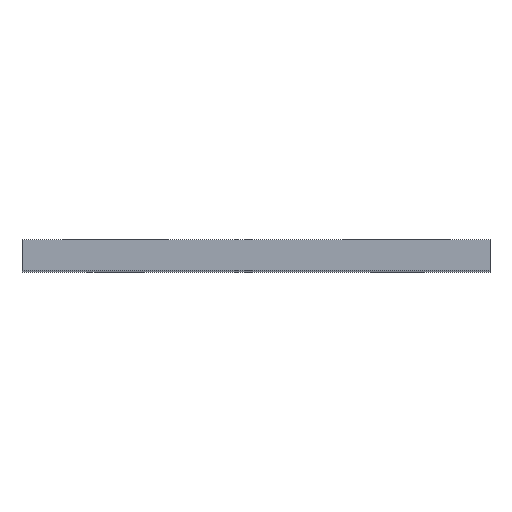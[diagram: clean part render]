
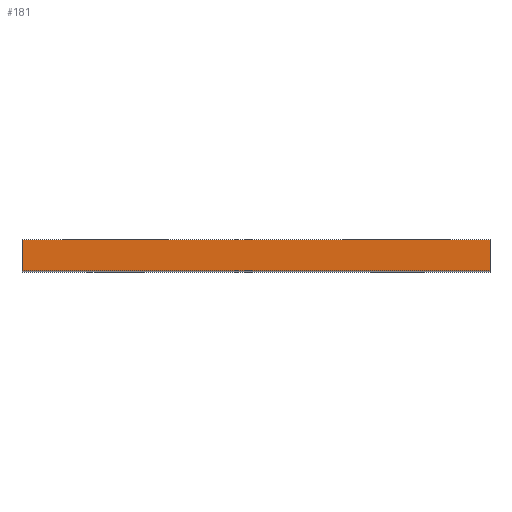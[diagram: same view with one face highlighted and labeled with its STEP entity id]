
A CAD part, top view. The second image highlights one B-rep face of the part: STEP entity #181.
In plain terms, the highlighted face is a extrusion surface.
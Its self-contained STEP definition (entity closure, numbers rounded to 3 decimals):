
#142=CARTESIAN_POINT('Control Point',(-75.,0.,0.)) ;
#143=CARTESIAN_POINT('Control Point',(0.,0.,0.)) ;
#147=CARTESIAN_POINT('Line Origine',(-37.5,0.,0.)) ;
#151=CARTESIAN_POINT('Vertex',(-75.,0.,0.)) ;
#153=CARTESIAN_POINT('Vertex',(0.,0.,0.)) ;
#156=CARTESIAN_POINT('Line Origine',(0.,2.5,0.)) ;
#160=CARTESIAN_POINT('Vertex',(0.,5.,0.)) ;
#163=CARTESIAN_POINT('Line Origine',(-37.5,5.,0.)) ;
#167=CARTESIAN_POINT('Vertex',(-75.,5.,0.)) ;
#170=CARTESIAN_POINT('Line Origine',(-75.,2.5,0.)) ;
#144=DIRECTION('Vector Direction',(0.,1.,0.)) ;
#148=DIRECTION('Vector Direction',(1.,0.,0.)) ;
#157=DIRECTION('Vector Direction',(0.,1.,0.)) ;
#164=DIRECTION('Vector Direction',(1.,0.,0.)) ;
#171=DIRECTION('Vector Direction',(0.,1.,0.)) ;
#176=ORIENTED_EDGE('',*,*,#155,.T.) ;
#177=ORIENTED_EDGE('',*,*,#162,.T.) ;
#178=ORIENTED_EDGE('',*,*,#169,.T.) ;
#179=ORIENTED_EDGE('',*,*,#174,.T.) ;
#145=VECTOR('Extrusion Surface Vector',#144,1.) ;
#149=VECTOR('Line Direction',#148,1.) ;
#158=VECTOR('Line Direction',#157,1.) ;
#165=VECTOR('Line Direction',#164,1.) ;
#172=VECTOR('Line Direction',#171,1.) ;
#181=ADVANCED_FACE('Superficie.3',(#180),#146,.T.) ;
#141=B_SPLINE_CURVE_WITH_KNOTS('',1,(#142,#143),.UNSPECIFIED.,.F.,.U.,(2,2),(-37.5,37.5),.UNSPECIFIED.) ;
#155=EDGE_CURVE('',#152,#154,#150,.T.) ;
#162=EDGE_CURVE('',#154,#161,#159,.T.) ;
#169=EDGE_CURVE('',#161,#168,#166,.F.) ;
#174=EDGE_CURVE('',#168,#152,#173,.F.) ;
#175=EDGE_LOOP('',(#176,#177,#178,#179)) ;
#180=FACE_OUTER_BOUND('',#175,.T.) ;
#150=LINE('Line',#147,#149) ;
#159=LINE('Line',#156,#158) ;
#166=LINE('Line',#163,#165) ;
#173=LINE('Line',#170,#172) ;
#146=SURFACE_OF_LINEAR_EXTRUSION('generated tabulated cylinder',#141,#145) ;
#152=VERTEX_POINT('',#151) ;
#154=VERTEX_POINT('',#153) ;
#161=VERTEX_POINT('',#160) ;
#168=VERTEX_POINT('',#167) ;
